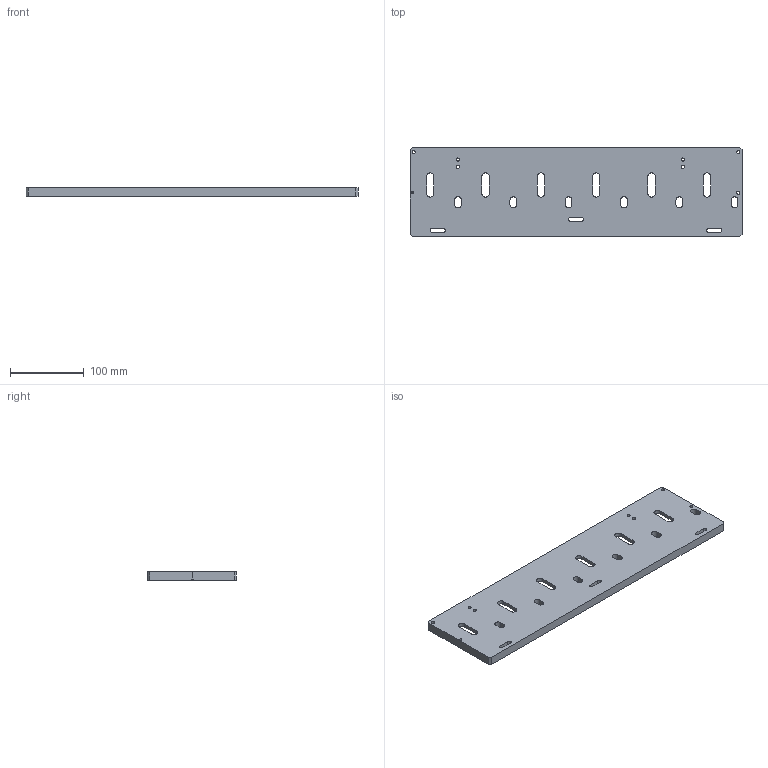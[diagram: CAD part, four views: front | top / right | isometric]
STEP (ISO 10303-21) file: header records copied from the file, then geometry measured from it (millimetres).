
FILE_DESCRIPTION (( 'STEP AP203' ), '1' );
FILE_NAME ('FB-010-26A耜啣BR.STEP', '2025-03-19T03:44:17', ( 'Windows 蚚誧' ), ( 'Organization' ), 'SwSTEP 2.0', 'SolidWorks 2020', '' );
FILE_SCHEMA (( 'CONFIG_CONTROL_DESIGN' ));
Length unit declared in the file: millimetre
Products named in the file (1): FB-010-26A耜啣BR
Bounding box: 450 x 120 x 12 mm (x, y, z)
Volume: 498318.6 mm3; surface area: 136101.9 mm2
Topology: 1 solids, 1 shells, 277 faces, 754 edges, 481 vertices
Faces by surface type: cylinder 154, plane 97, cone 26
Entity records: 8883 total; most frequent: DIRECTION 1592, CARTESIAN_POINT 1487, ORIENTED_EDGE 1456, EDGE_CURVE 728, AXIS2_PLACEMENT_3D 586, VERTEX_POINT 481, LINE 420, VECTOR 420
